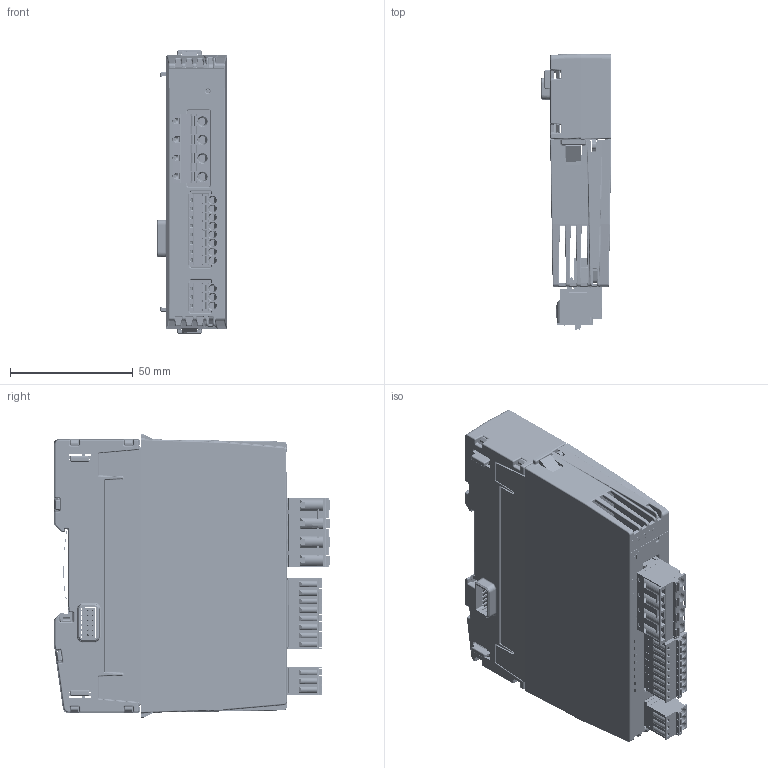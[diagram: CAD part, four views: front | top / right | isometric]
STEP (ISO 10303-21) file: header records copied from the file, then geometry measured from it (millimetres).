
FILE_DESCRIPTION(/* description */ (''),/* implementation_level */ '2;1');
FILE_NAME(/* name */ 'C:\Users\Public\Documents\Autodesk\Inventor 2023\PM03C_Simplified+BackBB21B.stp',/* time_stamp */ '2024-10-18T22:12:59+02:00',/* author */ ('shoma'),/* organization */ (''),/* preprocessor_version */ 'ST-DEVELOPER v19',/* originating_system */ 'Autodesk Inventor 2023',/* authorisation */ '');
FILE_SCHEMA (('AUTOMOTIVE_DESIGN { 1 0 10303 214 3 1 1 }'));
Products named in the file (1): PM03C_Simplified+BackBB21B
Bounding box: 28.9 x 112.6 x 115.5 mm (x, y, z)
Volume: 134090.4 mm3; surface area: 87889.8 mm2
Topology: 8 solids, 41 shells, 8269 faces, 22106 edges, 13899 vertices
Faces by surface type: plane 5303, cylinder 2059, bspline 563, sphere 163, cone 135, torus 46
Full cylindrical faces by diameter (mm): 0.296 x2, 0.3 x36, 0.434 x1, 0.457 x2, 0.7 x36, 0.8 x6, 0.85 x24, 0.9 x8, 1.17 x11, 1.25 x11, 1.3 x11, 1.4 x8, 1.5 x4, 1.6 x9, 2.35 x2, 2.5 x1, 2.8 x3, 3 x5, 3.1 x11, 3.25 x2, 4 x4
Entity records: 280326 total; most frequent: CARTESIAN_POINT 65654, ORIENTED_EDGE 43866, DIRECTION 41655, EDGE_CURVE 21933, LINE 15939, VECTOR 15939, VERTEX_POINT 13895, AXIS2_PLACEMENT_3D 12858
